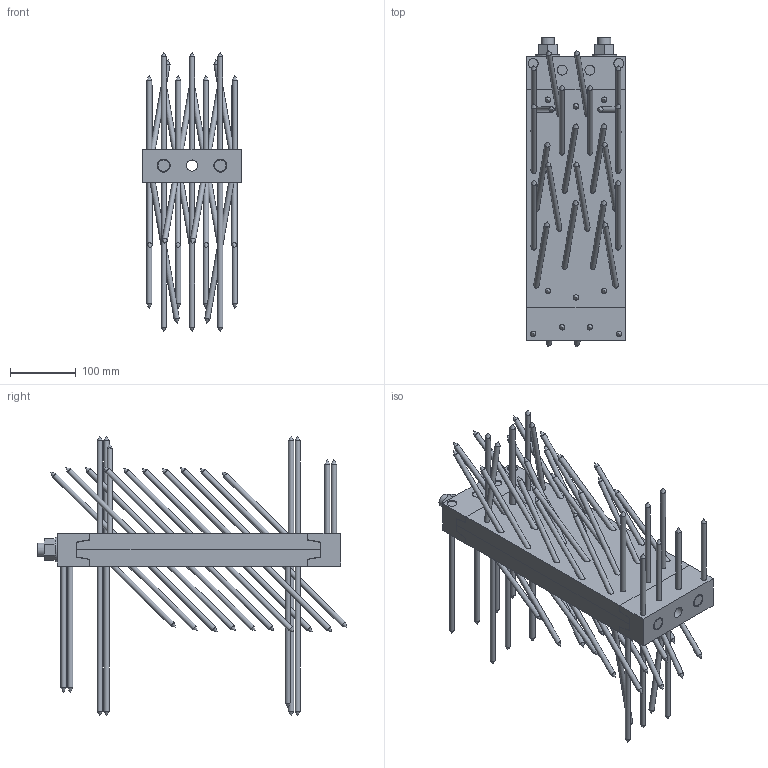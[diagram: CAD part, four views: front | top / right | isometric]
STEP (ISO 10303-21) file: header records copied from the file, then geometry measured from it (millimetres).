
FILE_DESCRIPTION(/* description */ ('Unknown'),/* implementation_level */ '2;1');
FILE_NAME(/* name */ 'MEGANT_430x150x50_Sichtbar',/* time_stamp */ '2020-05-05T17:16:21+02:00',/* author */ ('Unknown'),/* organization */ ('Unknown'),/* preprocessor_version */ 'ST-DEVELOPER v16.7',/* originating_system */ 'DEX',/* authorisation */ $);
FILE_SCHEMA (('AUTOMOTIVE_DESIGN {1 0 10303 214 3 1 1}'));
Length unit declared in the file: millimetre
Products named in the file (14): MEGANT_430x150x50_Sichtbar; Verbinderplatte_370x150x25_NT; SK_Schraube_8x240; Verbinderplatte_370x150x25; SK_Schraube_8x160; Verbinderplatte_370x150x25_HT ; Spannbacke_oben_150x50x50_NT; Spannbacke_oben_150x50x50; Spannbacke_unten_150x50x50_HT; Spannbacke_unten_150x50x50; Gewindestange_M20_L460; Mutter_M20; Beilagscheibe_M20
Assembly tree (77 placements, depth 3):
  MEGANT_430x150x50_Sichtbar
    Verbinderplatte_370x150x25_NT
      SK_Schraube_8x240  x8
      Verbinderplatte_370x150x25
      SK_Schraube_8x160  x20
    Verbinderplatte_370x150x25_HT 
      SK_Schraube_8x160  x28
      Verbinderplatte_370x150x25
    Spannbacke_oben_150x50x50_NT
      SK_Schraube_8x240  x4
      Spannbacke_oben_150x50x50
    Spannbacke_unten_150x50x50_HT
      Spannbacke_unten_150x50x50
      SK_Schraube_8x160  x4
    Gewindestange_M20_L460  x2
      Gewindestange_M20_L460
      Mutter_M20
      Beilagscheibe_M20
Bounding box: 150 x 469.49 x 424 mm (x, y, z)
Volume: 3329527.4 mm3; surface area: 815433.6 mm2
Topology: 74 solids, 74 shells, 734 faces, 1704 edges, 1066 vertices
Faces by surface type: cylinder 278, plane 264, cone 192
Full cylindrical faces by diameter (mm): 8 x64, 8.5 x64, 15 x128, 17.294 x5, 20 x2, 21 x5, 37 x2
Entity records: 7610 total; most frequent: DIRECTION 1280, CARTESIAN_POINT 1146, ORIENTED_EDGE 920, AXIS2_PLACEMENT_3D 500, FACE_BOUND 462, EDGE_CURVE 460, EDGE_LOOP 460, VERTEX_POINT 366
